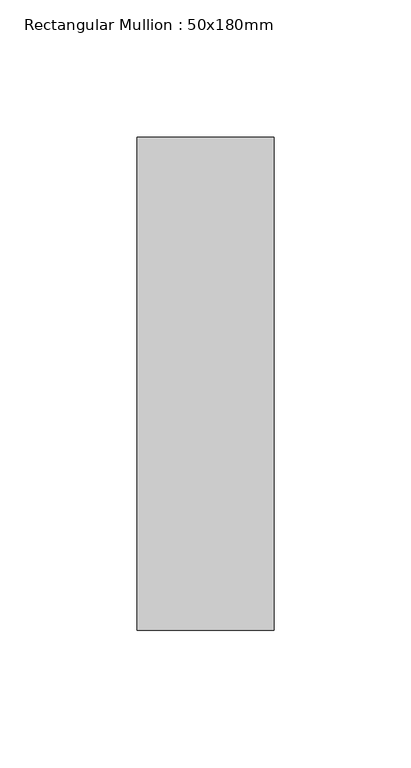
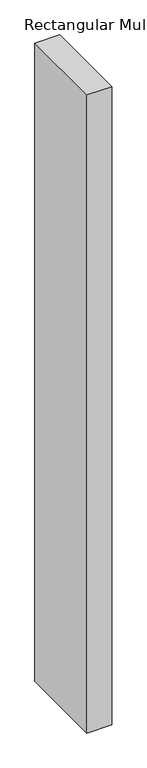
"""IFC4 building model written with IfcOpenShell, lengths in millimetres: member geometry, Rectangular Mullion : 50x180mm."""

import ifcopenshell
import ifcopenshell.guid

model = None  # the IFC model being written
_history = None  # IfcOwnerHistory: only IFC2X3 demands one
_inside = {}  # id of a spatial element -> (the spatial element, [elements in it])
_under = {}  # id of a project, library or spatial element -> (it, [spatial elements below it])
_declared = {}  # id of a project -> (the project, [libraries it declares])
_typed = {}  # id of a type object -> (the type object, [elements of that type])
_made_of = {}  # id of a material, layer set ... -> (it, [elements and type objects made of it])


def new_model(schema):
    """Start an empty IFC model of exactly this schema.

    Asked for "IFC4X3", IfcOpenShell would pick the latest addendum, in which some entities
    have other attributes; the version numbers below select the first issue.
    IFC2X3 requires an IfcOwnerHistory on every rooted entity: one is made here for all.
    """
    global model, _history
    if schema == "IFC4X3":
        model = ifcopenshell.file(schema_version=(4, 3, 0, 0))
    else:
        model = ifcopenshell.file(schema=schema)
    _inside.clear()
    _under.clear()
    _declared.clear()
    _typed.clear()
    _made_of.clear()
    _history = None
    if model.schema == "IFC2X3":
        org = make("IfcOrganization", Name="unknown")
        user = make(
            "IfcPersonAndOrganization",
            ThePerson=make("IfcPerson", FamilyName="unknown"),
            TheOrganization=org,
        )
        app = make(
            "IfcApplication",
            ApplicationDeveloper=org,
            Version="unknown",
            ApplicationFullName="unknown",
            ApplicationIdentifier="unknown",
        )
        _history = make(
            "IfcOwnerHistory",
            OwningUser=user,
            OwningApplication=app,
            ChangeAction="ADDED",
            CreationDate=0,
        )
    return model


def make(cls, **values):
    """One entity of the class cls with the attributes given. An attribute that is None is left unset."""
    return model.create_entity(
        cls, **{name: value for name, value in values.items() if value is not None}
    )


def rooted(cls, **values):
    """An entity with a GlobalId (a new one), such as an element, a storey or a relation."""
    return make(cls, GlobalId=ifcopenshell.guid.new(), OwnerHistory=_history, **values)


def si_unit(unit_type, name, prefix=None):
    """IfcSIUnit, for example si_unit("LENGTHUNIT", "METRE", prefix="MILLI")."""
    return make("IfcSIUnit", UnitType=unit_type, Prefix=prefix, Name=name)


def assignment(units):
    """IfcUnitAssignment: the units of a project."""
    return None if units is None else make("IfcUnitAssignment", Units=units)


def point(xyz):
    """IfcCartesianPoint."""
    return None if xyz is None else make("IfcCartesianPoint", Coordinates=xyz)


def direction(xyz):
    """IfcDirection."""
    return None if xyz is None else make("IfcDirection", DirectionRatios=xyz)


def frame(location, z_axis=None, x_axis=None):
    """IfcAxis2Placement3D, a coordinate frame: its origin and axes. An axis left out is left unset."""
    return make(
        "IfcAxis2Placement3D",
        Location=point(location),
        Axis=direction(z_axis),
        RefDirection=direction(x_axis),
    )


def origin():
    """The frame at (0, 0, 0) with its axes left unset."""
    return frame((0.0, 0.0, 0.0))


def place(relative_to, where):
    """IfcLocalPlacement: puts the frame where relative to a parent placement (None: the world)."""
    return make(
        "IfcLocalPlacement", PlacementRelTo=relative_to, RelativePlacement=where
    )


def context(
    kind, dimensions, precision=None, world=None, true_north=None, identifier=None
):
    """IfcGeometricRepresentationContext, for example the 3D "Model" context."""
    return make(
        "IfcGeometricRepresentationContext",
        ContextIdentifier=identifier,
        ContextType=kind,
        CoordinateSpaceDimension=dimensions,
        Precision=precision,
        WorldCoordinateSystem=world,
        TrueNorth=true_north,
    )


def project(units=None, contexts=None):
    """IfcProject with its units and contexts."""
    return rooted(
        "IfcProject",
        Name="project",
        RepresentationContexts=contexts,
        UnitsInContext=assignment(units),
    )


def spatial(cls, under=None, at=None, **own):
    """A site, building, storey or space (cls), placed at a placement, below another one or the project."""
    s = rooted(cls, ObjectPlacement=at, **own)
    if under is not None:
        _under.setdefault(under.id(), (under, []))[1].append(s)
    return s


def polyline(points):
    """IfcPolyline through the points."""
    return make("IfcPolyline", Points=[point(p) for p in points])


def outline(outer, holes=None, kind="AREA"):
    """IfcArbitraryClosedProfileDef: a profile drawn as a closed curve; with holes, ...WithVoids."""
    if holes is None:
        return make("IfcArbitraryClosedProfileDef", ProfileType=kind, OuterCurve=outer)
    return make(
        "IfcArbitraryProfileDefWithVoids",
        ProfileType=kind,
        OuterCurve=outer,
        InnerCurves=holes,
    )


def extrude(swept, where, along, depth):
    """IfcExtrudedAreaSolid: the profile swept, set in the frame where, extruded along a direction by depth."""
    return make(
        "IfcExtrudedAreaSolid",
        SweptArea=swept,
        Position=where,
        ExtrudedDirection=direction(along),
        Depth=depth,
    )


def shape(context_of_items, identifier, shape_type, items):
    """IfcShapeRepresentation: the items that make up one representation, for example the "Body"."""
    return make(
        "IfcShapeRepresentation",
        ContextOfItems=context_of_items,
        RepresentationIdentifier=identifier,
        RepresentationType=shape_type,
        Items=items,
    )


def source(mapping_origin, context_of_items, identifier, shape_type, items):
    """IfcRepresentationMap: a shape defined once, which mapped items show again and again."""
    return make(
        "IfcRepresentationMap",
        MappingOrigin=mapping_origin,
        MappedRepresentation=shape(context_of_items, identifier, shape_type, items),
    )


def transform(
    local_origin,
    x_axis=None,
    y_axis=None,
    z_axis=None,
    scale=None,
    scale2=None,
    scale3=None,
    uniform=True,
):
    """IfcCartesianTransformationOperator3D, or its non-uniform kind. x_axis, y_axis, z_axis: its Axis1, 2, 3."""
    if uniform:
        return make(
            "IfcCartesianTransformationOperator3D",
            Axis1=direction(x_axis),
            Axis2=direction(y_axis),
            LocalOrigin=point(local_origin),
            Scale=scale,
            Axis3=direction(z_axis),
        )
    return make(
        "IfcCartesianTransformationOperator3DnonUniform",
        Axis1=direction(x_axis),
        Axis2=direction(y_axis),
        LocalOrigin=point(local_origin),
        Scale=scale,
        Axis3=direction(z_axis),
        Scale2=scale2,
        Scale3=scale3,
    )


def mapped(mapping_source, mapping_target):
    """IfcMappedItem: shows the shape of a source again, moved by a transform."""
    return make(
        "IfcMappedItem", MappingSource=mapping_source, MappingTarget=mapping_target
    )


def made_of(thing, what):
    """Note that an element or type object is made of a material, layer set ...; save() writes the relation."""
    if what is not None:
        _made_of.setdefault(what.id(), (what, []))[1].append(thing)
    return thing


def element(
    cls,
    number,
    at=None,
    inside=None,
    cuts=None,
    type_object=None,
    material=None,
    context=None,
    identifier="Body",
    shape_type=None,
    held_by="IfcProductDefinitionShape",
    body=None,
    shapes=None,
    **own,
):
    """One element of the class cls, such as IfcWall. Its Tag is "e" and its number.

    at: its placement. inside: the storey or other place that contains it. cuts: it is an
    opening in that element (IfcRelVoidsElement). A single representation is given by context,
    identifier, shape_type and body (its items); several are given by shapes. held_by: the class
    of the entity that holds the representations. save() writes the other relations.
    """
    e = rooted(cls, Tag="e%d" % number, ObjectPlacement=at, **own)
    if body is not None:
        shapes = [shape(context, identifier, shape_type, body)]
    if shapes is not None:
        e.Representation = make(held_by, Representations=shapes)
    if inside is not None:
        _inside.setdefault(inside.id(), (inside, []))[1].append(e)
    if cuts is not None:
        rooted(
            "IfcRelVoidsElement", RelatingBuildingElement=cuts, RelatedOpeningElement=e
        )
    if type_object is not None:
        _typed.setdefault(type_object.id(), (type_object, []))[1].append(e)
    return made_of(e, material)


def aggregate(whole, parts):
    """IfcRelAggregates: a whole, such as a stair, and the parts it consists of."""
    return rooted("IfcRelAggregates", RelatingObject=whole, RelatedObjects=parts)


def save(model, path):
    """Write the relations noted so far, then the file.

    IfcRelAggregates (storeys below a building ...), IfcRelContainedInSpatialStructure (elements
    in a storey), IfcRelDefinesByType, IfcRelAssociatesMaterial and IfcRelDeclares: one each for
    every whole, place, type object, material and project.
    """
    for whole, parts in _under.values():
        aggregate(whole, parts)
    for where, things in _inside.values():
        rooted(
            "IfcRelContainedInSpatialStructure",
            RelatedElements=things,
            RelatingStructure=where,
        )
    for kind, things in _typed.values():
        rooted("IfcRelDefinesByType", RelatedObjects=things, RelatingType=kind)
    for what, things in _made_of.values():
        rooted("IfcRelAssociatesMaterial", RelatedObjects=things, RelatingMaterial=what)
    for by, libraries in _declared.values():
        rooted("IfcRelDeclares", RelatingContext=by, RelatedDefinitions=libraries)
    model.write(path)


def rectangular_mullion_50x180mm_51ec013b(model_context):
    return source(origin(), model_context, "Body", "SweptSolid", [
        extrude(outline(polyline([(0.0, 90.0), (0.0, -90.0), (-50.0, -90.0), (-50.0, 90.0), (0.0, 90.0)])), frame((0.0, 0.0, -1350.1153516), z_axis=(0.0, 0.0, 1.0), x_axis=(1.0, 0.0, 0.0)), (0.0, 0.0, 1.0), 1350.1153516),
    ])


if __name__ == "__main__":
    model = new_model("IFC4")
    model_context = context("Model", 3, world=origin())
    ifc_project = project(units=[si_unit("LENGTHUNIT", "METRE", prefix="MILLI")], contexts=[model_context])
    site = spatial("IfcSite", under=ifc_project)
    building = spatial("IfcBuilding", under=site)
    placement = place(None, origin())
    rectangular_mullion_50x180mm_shape = rectangular_mullion_50x180mm_51ec013b(model_context)
    element("IfcMember", 1, ObjectType="Rectangular Mullion : 50x180mm", at=placement, inside=building, context=model_context, shape_type="MappedRepresentation", body=[
        mapped(rectangular_mullion_50x180mm_shape, transform((0.0, 0.0, 0.0), x_axis=(1.0, 0.0, 0.0), y_axis=(0.0, 1.0, 0.0), z_axis=(0.0, 0.0, 1.0))),
    ])
    save(model, "model.ifc")
